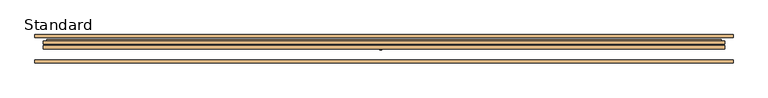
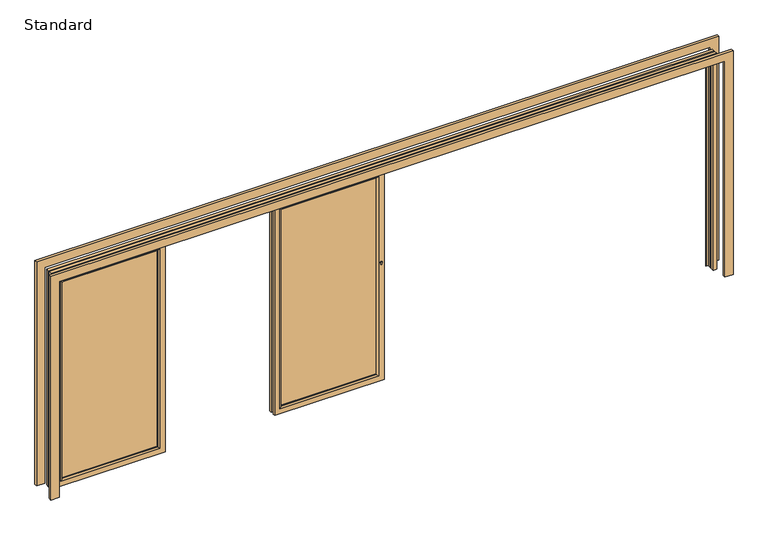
"""IFC4 building model written with IfcOpenShell, lengths in millimetres: door geometry, SMARTS_Visofold1000 : Standard."""

from ifc_helpers import new_model, si_unit, point, frame, frame_2d, origin, place, context, project, spatial, polyline, circle_curve, ellipse_curve, trimmed, segment, composite_curve, outline, extrude, faceted_brep, source, transform, mapped, element, save
from ifc_brep_helpers import plane_surface, cylinder_surface, advanced_brep


def standard_cc0f0e76(model_context):
    return source(origin(), model_context, "Body", "SolidModel", [
        extrude(outline(composite_curve([segment(polyline([(1125.1769586, -34.9893771), (1117.5996413, -34.9893771)]), True, "CONTINUOUS"), segment(trimmed(circle_curve(frame_2d((1117.5996413, -29.9893771)), 5.0), [point((1117.5996413, -34.9893771))], [point((1117.5996413, -24.9893771))], False, "CARTESIAN"), True, "CONTINUOUS"), segment(polyline([(1117.5996413, -24.9893771), (1125.27562, -24.9893771)]), True, "CONTINUOUS"), segment(trimmed(circle_curve(frame_2d((1132.0996413, -30.0571906)), 8.5), [point((1125.27562, -24.9893771))], [point((1125.1769586, -34.9893771))], False, "CARTESIAN"), True, "CONTINUOUS")], self_intersect=False)), frame((0.0, -12.0, 0.0), z_axis=(0.0, 1.0, 0.0), x_axis=(0.0, 0.0, 1.0)), (0.0, 0.0, 1.0), 2.0),
        extrude(outline(polyline([(45.0, -45.0), (1955.0, -45.0), (1955.0, -941.6666667), (45.0, -941.6666667), (45.0, -45.0)]), holes=[polyline([(1939.5, -60.5), (60.5, -60.5), (60.5, -926.1666667), (1939.5, -926.1666667), (1939.5, -60.5)])]), frame((0.0, 17.4, 0.0), z_axis=(0.0, 1.0, 0.0), x_axis=(0.0, 0.0, 1.0)), (0.0, 0.0, 1.0), 35.0),
        faceted_brep([(0.0, 74.4, 0.0), (0.0, 74.4, 2000.0), (0.0, 52.4, 2000.0), (0.0, 52.4, 0.0), (-60.5, 52.4, 60.5), (-60.5, 52.4, 1939.5), (-60.5, 74.4, 1939.5), (-60.5, 74.4, 60.5), (-986.6666667, 74.4, 2000.0), (-986.6666667, 52.4, 2000.0), (-926.1666667, 52.4, 1939.5), (-926.1666667, 74.4, 1939.5), (-986.6666667, 74.4, 0.0), (-986.6666667, 52.4, 0.0), (-926.1666667, 52.4, 60.5), (-926.1666667, 74.4, 60.5), (-17.8691481, 34.8, 17.8691481), (-17.8691481, 34.8, 1982.1308519), (-968.7975186, 34.8, 1982.1308519), (-968.7975186, 34.8, 17.8691481), (-45.0, 34.8, 1955.0), (-45.0, 34.8, 45.0), (-941.6666667, 34.8, 45.0), (-941.6666667, 34.8, 1955.0), (-17.8691481, 52.4, 17.8691481), (-17.8691481, 52.4, 1982.1308519), (-45.0, 52.4, 1955.0), (-45.0, 52.4, 45.0), (-968.7975186, 52.4, 1982.1308519), (-941.6666667, 52.4, 1955.0), (-968.7975186, 52.4, 17.8691481), (-941.6666667, 52.4, 45.0)], [[[0, 1, 2, 3]], [[4, 5, 6, 7]], [[1, 8, 9, 2]], [[5, 10, 11, 6]], [[8, 12, 13, 9]], [[10, 14, 15, 11]], [[12, 0, 3, 13]], [[1, 0, 12, 8], [7, 6, 11, 15]], [[14, 4, 7, 15]], [[16, 17, 18, 19], [20, 21, 22, 23]], [[24, 25, 17, 16]], [[21, 20, 26, 27]], [[25, 28, 18, 17]], [[20, 23, 29, 26]], [[28, 30, 19, 18]], [[23, 22, 31, 29]], [[30, 24, 16, 19]], [[3, 2, 9, 13], [25, 24, 30, 28]], [[27, 26, 29, 31], [5, 4, 14, 10]], [[22, 21, 27, 31]]]),
        advanced_brep(
        [(-60.5, 13.3, 60.5), (-60.5, 13.3, 1939.5), (-60.5, 17.4, 1939.5), (-60.5, 17.4, 60.5), (0.0, 17.4, 0.0), (0.0, 17.4, 2000.0), (0.0, 0.0, 2000.0), (0.0, 0.0, 0.0), (-926.1666667, 13.3, 1939.5), (-926.1666667, 17.4, 1939.5), (-986.6666667, 17.4, 2000.0), (-986.6666667, 0.0, 2000.0), (-926.1666667, 13.3, 60.5), (-926.1666667, 17.4, 60.5), (-986.6666667, 17.4, 0.0), (-986.6666667, 0.0, 0.0), (-47.2, 0.0, 1952.8), (-47.2, 0.0, 47.2), (-939.4666667, 0.0, 47.2), (-939.4666667, 0.0, 1952.8), (-17.8691481, 34.8, 17.8691481), (-17.8691481, 34.8, 1982.1308519), (-17.8691481, 17.4, 1982.1308519), (-17.8691481, 17.4, 17.8691481), (-968.7975186, 34.8, 1982.1308519), (-968.7975186, 17.4, 1982.1308519), (-968.7975186, 34.8, 17.8691481), (-968.7975186, 17.4, 17.8691481), (-45.0, 17.4, 45.0), (-45.0, 17.4, 1955.0), (-45.0, 34.8, 1955.0), (-45.0, 34.8, 45.0), (-941.6666667, 17.4, 1955.0), (-941.6666667, 34.8, 1955.0), (-941.6666667, 17.4, 45.0), (-941.6666667, 34.8, 45.0)],
        [
            (0, 1),
            (1, 2),
            (2, 3),
            (3, 0),
            (4, 5),
            (5, 6),
            (6, 7),
            (7, 4),
            (1, 8),
            (8, 9),
            (9, 2),
            (5, 10),
            (10, 11),
            (11, 6),
            (8, 12),
            (12, 13),
            (13, 9),
            (10, 14),
            (14, 15),
            (15, 11),
            (12, 0),
            (3, 13),
            (15, 7),
            (16, 17),
            (17, 18),
            (18, 19),
            (19, 16),
            (14, 4),
            (16, 1, ellipse_curve(frame((-47.2, 13.3, 1952.8), z_axis=(0.7071067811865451, 0.0, -0.7071067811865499), x_axis=(-0.70710678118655, 0.0, -0.7071067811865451)), 18.8090404, 13.3)),
            (0, 17, ellipse_curve(frame((-47.2, 13.3, 47.2), z_axis=(0.70710678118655, 0.0, 0.707106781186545), x_axis=(0.707106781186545, 0.0, -0.7071067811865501)), 18.8090404, 13.3)),
            (19, 8, ellipse_curve(frame((-939.4666667, 13.3, 1952.8), z_axis=(0.70710678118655, 0.0, 0.707106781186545), x_axis=(0.707106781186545, 0.0, -0.7071067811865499)), 18.8090404, 13.3)),
            (18, 12, ellipse_curve(frame((-939.4666667, 13.3, 47.2), z_axis=(-0.7071067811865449, 0.0, 0.70710678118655), x_axis=(0.7071067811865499, 0.0, 0.707106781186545)), 18.8090404, 13.3)),
            (20, 21),
            (21, 22),
            (22, 23),
            (23, 20),
            (21, 24),
            (24, 25),
            (25, 22),
            (24, 26),
            (26, 27),
            (27, 25),
            (27, 23),
            (26, 20),
            (28, 29),
            (29, 30),
            (30, 31),
            (31, 28),
            (29, 32),
            (32, 33),
            (33, 30),
            (32, 34),
            (34, 35),
            (35, 33),
            (34, 28),
            (31, 35),
        ],
        [
            plane_surface(frame((-60.5, 17.4, 60.5), z_axis=(-1.0, 0.0, 0.0), x_axis=(0.0, 0.0, 1.0))),
            plane_surface(frame((0.0, 0.0, 0.0), z_axis=(1.0, 0.0, 0.0), x_axis=(0.0, 0.0, 1.0))),
            plane_surface(frame((-60.5, 17.4, 1939.5), z_axis=(0.0, 0.0, -1.0), x_axis=(-1.0, 0.0, 0.0))),
            plane_surface(frame((0.0, 0.0, 2000.0), z_axis=(0.0, 0.0, 1.0), x_axis=(-1.0, 0.0, 0.0))),
            plane_surface(frame((-926.1666667, 17.4, 1939.5), z_axis=(1.0, 0.0, 0.0), x_axis=(0.0, 0.0, -1.0))),
            plane_surface(frame((-986.6666667, 0.0, 2000.0), z_axis=(-1.0, 0.0, 0.0), x_axis=(0.0, 0.0, -1.0))),
            plane_surface(frame((-926.1666667, 17.4, 60.5), z_axis=(0.0, 0.0, 1.0), x_axis=(1.0, 0.0, 0.0))),
            plane_surface(frame((-939.4666667, 0.0, 47.2), z_axis=(0.0, -1.0, 0.0), x_axis=(1.0, 0.0, 0.0))),
            plane_surface(frame((-986.6666667, 0.0, 0.0), z_axis=(0.0, 0.0, -1.0), x_axis=(1.0, 0.0, 0.0))),
            cylinder_surface(frame((-47.2, 13.3, 0.0), z_axis=(0.0, 0.0, -1.0), x_axis=(0.0, 1.0, 0.0)), 13.3),
            cylinder_surface(frame((0.0, 13.3, 1952.8), z_axis=(1.0, 0.0, 0.0), x_axis=(0.0, 1.0, 0.0)), 13.3),
            cylinder_surface(frame((-939.4666667, 13.3, 2000.0), z_axis=(0.0, 0.0, 1.0), x_axis=(0.0, 1.0, 0.0)), 13.3),
            cylinder_surface(frame((-986.6666667, 13.3, 47.2), z_axis=(-1.0, 0.0, 0.0), x_axis=(0.0, 1.0, 0.0)), 13.3),
            plane_surface(frame((-17.8691481, 17.4, 17.8691481), z_axis=(1.0, 0.0, 0.0), x_axis=(0.0, 0.0, 1.0))),
            plane_surface(frame((-17.8691481, 17.4, 1982.1308519), z_axis=(0.0, 0.0, 1.0), x_axis=(-1.0, 0.0, 0.0))),
            plane_surface(frame((-968.7975186, 17.4, 1982.1308519), z_axis=(-1.0, 0.0, 0.0), x_axis=(0.0, 0.0, -1.0))),
            plane_surface(frame((-986.6666667, 17.4, 0.0), z_axis=(0.0, 1.0, 0.0), x_axis=(1.0, 0.0, 0.0))),
            plane_surface(frame((-968.7975186, 17.4, 17.8691481), z_axis=(0.0, 0.0, -1.0), x_axis=(1.0, 0.0, 0.0))),
            plane_surface(frame((-45.0, 34.8, 45.0), z_axis=(-1.0, 0.0, 0.0), x_axis=(0.0, 0.0, 1.0))),
            plane_surface(frame((-45.0, 34.8, 1955.0), z_axis=(0.0, 0.0, -1.0), x_axis=(-1.0, 0.0, 0.0))),
            plane_surface(frame((-941.6666667, 34.8, 1955.0), z_axis=(1.0, 0.0, 0.0), x_axis=(0.0, 0.0, -1.0))),
            plane_surface(frame((-941.6666667, 34.8, 45.0), z_axis=(0.0, 0.0, 1.0), x_axis=(1.0, 0.0, 0.0))),
            plane_surface(frame((-941.6666667, 17.4, 45.0), z_axis=(0.0, 1.0, 0.0), x_axis=(1.0, 0.0, 0.0))),
            plane_surface(frame((-968.7975186, 34.8, 17.8691481), z_axis=(0.0, 1.0, 0.0), x_axis=(1.0, 0.0, 0.0))),
        ],
        [
            (0, [[1, 2, 3, 4]]),
            (1, [[5, 6, 7, 8]]),
            (2, [[9, 10, 11, -2]]),
            (3, [[12, 13, 14, -6]]),
            (4, [[15, 16, 17, -10]]),
            (5, [[18, 19, 20, -13]]),
            (6, [[21, -4, 22, -16]]),
            (7, [[-7, -14, -20, 23], [24, 25, 26, 27]]),
            (8, [[28, -8, -23, -19]]),
            (9, [[-24, 29, -1, 30]]),
            (10, [[-27, 31, -9, -29]]),
            (11, [[-26, 32, -15, -31]]),
            (12, [[-25, -30, -21, -32]]),
            (13, [[33, 34, 35, 36]]),
            (14, [[37, 38, 39, -34]]),
            (15, [[40, 41, 42, -38]]),
            (16, [[-5, -28, -18, -12], [-35, -39, -42, 43]]),
            (17, [[44, -36, -43, -41]]),
            (18, [[45, 46, 47, 48]]),
            (19, [[49, 50, 51, -46]]),
            (20, [[52, 53, 54, -50]]),
            (21, [[55, -48, 56, -53]]),
            (22, [[-45, -55, -52, -49], [-3, -11, -17, -22]]),
            (23, [[-33, -44, -40, -37], [-47, -51, -54, -56]]),
        ],
    ),
        extrude(outline(polyline([(-60.5, 50.1484783), (-60.5, 21.4), (-926.1666667, 21.4), (-926.1666667, 50.1484783), (-60.5, 50.1484783)])), frame((0.0, 0.0, 60.5), z_axis=(0.0, 0.0, 1.0), x_axis=(1.0, 0.0, 0.0)), (0.0, 0.0, 1.0), 1879.0),
        extrude(outline(polyline([(45.0, -2018.3333333), (1955.0, -2018.3333333), (1955.0, -2915.0), (45.0, -2915.0), (45.0, -2018.3333333)]), holes=[polyline([(1939.5, -2033.8333333), (60.5, -2033.8333333), (60.5, -2899.5), (1939.5, -2899.5), (1939.5, -2033.8333333)])]), frame((0.0, 17.4, 0.0), z_axis=(0.0, 1.0, 0.0), x_axis=(0.0, 0.0, 1.0)), (0.0, 0.0, 1.0), 35.0),
        faceted_brep([(-1973.3333333, 74.4, 0.0), (-1973.3333333, 74.4, 2000.0), (-1973.3333333, 52.4, 2000.0), (-1973.3333333, 52.4, 0.0), (-2033.8333333, 52.4, 60.5), (-2033.8333333, 52.4, 1939.5), (-2033.8333333, 74.4, 1939.5), (-2033.8333333, 74.4, 60.5), (-2960.0, 74.4, 0.0), (-2960.0, 52.4, 0.0), (-2960.0, 74.4, 2000.0), (-2960.0, 52.4, 2000.0), (-2899.5, 52.4, 1939.5), (-2899.5, 74.4, 1939.5), (-2899.5, 52.4, 60.5), (-2899.5, 74.4, 60.5), (-1991.2024814, 34.8, 17.8691481), (-1991.2024814, 34.8, 1982.1308519), (-2942.1308519, 34.8, 1982.1308519), (-2942.1308519, 34.8, 17.8691481), (-2018.3333333, 34.8, 1955.0), (-2018.3333333, 34.8, 45.0), (-2915.0, 34.8, 45.0), (-2915.0, 34.8, 1955.0), (-1991.2024814, 52.4, 17.8691481), (-1991.2024814, 52.4, 1982.1308519), (-2018.3333333, 52.4, 1955.0), (-2018.3333333, 52.4, 45.0), (-2942.1308519, 52.4, 1982.1308519), (-2915.0, 52.4, 1955.0), (-2942.1308519, 52.4, 17.8691481), (-2915.0, 52.4, 45.0)], [[[0, 1, 2, 3]], [[4, 5, 6, 7]], [[8, 0, 3, 9]], [[1, 10, 11, 2]], [[5, 12, 13, 6]], [[10, 8, 9, 11]], [[12, 14, 15, 13]], [[1, 0, 8, 10], [7, 6, 13, 15]], [[14, 4, 7, 15]], [[16, 17, 18, 19], [20, 21, 22, 23]], [[24, 25, 17, 16]], [[21, 20, 26, 27]], [[25, 28, 18, 17]], [[20, 23, 29, 26]], [[28, 30, 19, 18]], [[23, 22, 31, 29]], [[30, 24, 16, 19]], [[3, 2, 11, 9], [25, 24, 30, 28]], [[27, 26, 29, 31], [5, 4, 14, 12]], [[22, 21, 27, 31]]]),
        advanced_brep(
        [(-2033.8333333, 13.3, 60.5), (-2033.8333333, 13.3, 1939.5), (-2033.8333333, 17.4, 1939.5), (-2033.8333333, 17.4, 60.5), (-1973.3333333, 17.4, 0.0), (-1973.3333333, 17.4, 2000.0), (-1973.3333333, 0.0, 2000.0), (-1973.3333333, 0.0, 0.0), (-2899.5, 13.3, 1939.5), (-2899.5, 17.4, 1939.5), (-2960.0, 17.4, 2000.0), (-2960.0, 0.0, 2000.0), (-2899.5, 13.3, 60.5), (-2899.5, 17.4, 60.5), (-2960.0, 17.4, 0.0), (-2960.0, 0.0, 0.0), (-2020.5333333, 0.0, 1952.8), (-2020.5333333, 0.0, 47.2), (-2912.8, 0.0, 47.2), (-2912.8, 0.0, 1952.8), (-1991.2024814, 34.8, 17.8691481), (-1991.2024814, 34.8, 1982.1308519), (-1991.2024814, 17.4, 1982.1308519), (-1991.2024814, 17.4, 17.8691481), (-2942.1308519, 34.8, 1982.1308519), (-2942.1308519, 17.4, 1982.1308519), (-2942.1308519, 34.8, 17.8691481), (-2942.1308519, 17.4, 17.8691481), (-2018.3333333, 17.4, 45.0), (-2018.3333333, 17.4, 1955.0), (-2018.3333333, 34.8, 1955.0), (-2018.3333333, 34.8, 45.0), (-2915.0, 17.4, 1955.0), (-2915.0, 34.8, 1955.0), (-2915.0, 17.4, 45.0), (-2915.0, 34.8, 45.0)],
        [
            (0, 1),
            (1, 2),
            (2, 3),
            (3, 0),
            (4, 5),
            (5, 6),
            (6, 7),
            (7, 4),
            (1, 8),
            (8, 9),
            (9, 2),
            (5, 10),
            (10, 11),
            (11, 6),
            (8, 12),
            (12, 13),
            (13, 9),
            (10, 14),
            (14, 15),
            (15, 11),
            (12, 0),
            (3, 13),
            (15, 7),
            (16, 17),
            (17, 18),
            (18, 19),
            (19, 16),
            (14, 4),
            (16, 1, ellipse_curve(frame((-2020.5333333, 13.3, 1952.8), z_axis=(0.7071067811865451, 0.0, -0.7071067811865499), x_axis=(-0.70710678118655, 0.0, -0.7071067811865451)), 18.8090404, 13.3)),
            (0, 17, ellipse_curve(frame((-2020.5333333, 13.3, 47.2), z_axis=(0.70710678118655, 0.0, 0.707106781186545), x_axis=(0.707106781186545, 0.0, -0.7071067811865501)), 18.8090404, 13.3)),
            (19, 8, ellipse_curve(frame((-2912.8, 13.3, 1952.8), z_axis=(0.70710678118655, 0.0, 0.707106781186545), x_axis=(0.707106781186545, 0.0, -0.7071067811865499)), 18.8090404, 13.3)),
            (18, 12, ellipse_curve(frame((-2912.8, 13.3, 47.2), z_axis=(-0.7071067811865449, 0.0, 0.70710678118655), x_axis=(0.7071067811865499, 0.0, 0.707106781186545)), 18.8090404, 13.3)),
            (20, 21),
            (21, 22),
            (22, 23),
            (23, 20),
            (21, 24),
            (24, 25),
            (25, 22),
            (24, 26),
            (26, 27),
            (27, 25),
            (27, 23),
            (26, 20),
            (28, 29),
            (29, 30),
            (30, 31),
            (31, 28),
            (29, 32),
            (32, 33),
            (33, 30),
            (32, 34),
            (34, 35),
            (35, 33),
            (34, 28),
            (31, 35),
        ],
        [
            plane_surface(frame((-2033.8333333, 17.4, 60.5), z_axis=(-1.0, 0.0, 0.0), x_axis=(0.0, 0.0, 1.0))),
            plane_surface(frame((-1973.3333333, 0.0, 0.0), z_axis=(1.0, 0.0, 0.0), x_axis=(0.0, 0.0, 1.0))),
            plane_surface(frame((-2033.8333333, 17.4, 1939.5), z_axis=(0.0, 0.0, -1.0), x_axis=(-1.0, 0.0, 0.0))),
            plane_surface(frame((-1973.3333333, 0.0, 2000.0), z_axis=(0.0, 0.0, 1.0), x_axis=(-1.0, 0.0, 0.0))),
            plane_surface(frame((-2899.5, 17.4, 1939.5), z_axis=(1.0, 0.0, 0.0), x_axis=(0.0, 0.0, -1.0))),
            plane_surface(frame((-2960.0, 0.0, 2000.0), z_axis=(-1.0, 0.0, 0.0), x_axis=(0.0, 0.0, -1.0))),
            plane_surface(frame((-2899.5, 17.4, 60.5), z_axis=(0.0, 0.0, 1.0), x_axis=(1.0, 0.0, 0.0))),
            plane_surface(frame((-2912.8, 0.0, 47.2), z_axis=(0.0, -1.0, 0.0), x_axis=(1.0, 0.0, 0.0))),
            plane_surface(frame((-2960.0, 0.0, 0.0), z_axis=(0.0, 0.0, -1.0), x_axis=(1.0, 0.0, 0.0))),
            cylinder_surface(frame((-2020.5333333, 13.3, 0.0), z_axis=(0.0, 0.0, -1.0), x_axis=(0.0, 1.0, 0.0)), 13.3),
            cylinder_surface(frame((-1973.3333333, 13.3, 1952.8), z_axis=(1.0, 0.0, 0.0), x_axis=(0.0, 1.0, 0.0)), 13.3),
            cylinder_surface(frame((-2912.8, 13.3, 2000.0), z_axis=(0.0, 0.0, 1.0), x_axis=(0.0, 1.0, 0.0)), 13.3),
            cylinder_surface(frame((-2960.0, 13.3, 47.2), z_axis=(-1.0, 0.0, 0.0), x_axis=(0.0, 1.0, 0.0)), 13.3),
            plane_surface(frame((-1991.2024814, 17.4, 17.8691481), z_axis=(1.0, 0.0, 0.0), x_axis=(0.0, 0.0, 1.0))),
            plane_surface(frame((-1991.2024814, 17.4, 1982.1308519), z_axis=(0.0, 0.0, 1.0), x_axis=(-1.0, 0.0, 0.0))),
            plane_surface(frame((-2942.1308519, 17.4, 1982.1308519), z_axis=(-1.0, 0.0, 0.0), x_axis=(0.0, 0.0, -1.0))),
            plane_surface(frame((-2960.0, 17.4, 0.0), z_axis=(0.0, 1.0, 0.0), x_axis=(1.0, 0.0, 0.0))),
            plane_surface(frame((-2942.1308519, 17.4, 17.8691481), z_axis=(0.0, 0.0, -1.0), x_axis=(1.0, 0.0, 0.0))),
            plane_surface(frame((-2018.3333333, 34.8, 45.0), z_axis=(-1.0, 0.0, 0.0), x_axis=(0.0, 0.0, 1.0))),
            plane_surface(frame((-2018.3333333, 34.8, 1955.0), z_axis=(0.0, 0.0, -1.0), x_axis=(-1.0, 0.0, 0.0))),
            plane_surface(frame((-2915.0, 34.8, 1955.0), z_axis=(1.0, 0.0, 0.0), x_axis=(0.0, 0.0, -1.0))),
            plane_surface(frame((-2915.0, 34.8, 45.0), z_axis=(0.0, 0.0, 1.0), x_axis=(1.0, 0.0, 0.0))),
            plane_surface(frame((-2915.0, 17.4, 45.0), z_axis=(0.0, 1.0, 0.0), x_axis=(1.0, 0.0, 0.0))),
            plane_surface(frame((-2942.1308519, 34.8, 17.8691481), z_axis=(0.0, 1.0, 0.0), x_axis=(1.0, 0.0, 0.0))),
        ],
        [
            (0, [[1, 2, 3, 4]]),
            (1, [[5, 6, 7, 8]]),
            (2, [[9, 10, 11, -2]]),
            (3, [[12, 13, 14, -6]]),
            (4, [[15, 16, 17, -10]]),
            (5, [[18, 19, 20, -13]]),
            (6, [[21, -4, 22, -16]]),
            (7, [[-7, -14, -20, 23], [24, 25, 26, 27]]),
            (8, [[28, -8, -23, -19]]),
            (9, [[-24, 29, -1, 30]]),
            (10, [[-27, 31, -9, -29]]),
            (11, [[-26, 32, -15, -31]]),
            (12, [[-25, -30, -21, -32]]),
            (13, [[33, 34, 35, 36]]),
            (14, [[37, 38, 39, -34]]),
            (15, [[40, 41, 42, -38]]),
            (16, [[-5, -28, -18, -12], [-35, -39, -42, 43]]),
            (17, [[44, -36, -43, -41]]),
            (18, [[45, 46, 47, 48]]),
            (19, [[49, 50, 51, -46]]),
            (20, [[52, 53, 54, -50]]),
            (21, [[55, -48, 56, -53]]),
            (22, [[-45, -55, -52, -49], [-3, -11, -17, -22]]),
            (23, [[-33, -44, -40, -37], [-47, -51, -54, -56]]),
        ],
    ),
        extrude(outline(polyline([(-2033.8333333, 50.1484783), (-2033.8333333, 21.4), (-2899.5, 21.4), (-2899.5, 50.1484783), (-2033.8333333, 50.1484783)])), frame((0.0, 0.0, 60.5), z_axis=(0.0, 0.0, 1.0), x_axis=(1.0, 0.0, 0.0)), (0.0, 0.0, 1.0), 1879.0),
        extrude(outline(polyline([(2058.6516063, -3000.0), (2058.6516063, 3000.0), (0.0, 3000.0), (0.0, 3075.0), (2133.6516063, 3075.0), (2133.6516063, -3075.0), (0.0, -3075.0), (0.0, -3000.0), (2058.6516063, -3000.0)])), frame((0.0, 100.0, 0.0), z_axis=(0.0, 1.0, 0.0), x_axis=(0.0, 0.0, 1.0)), (0.0, 0.0, 1.0), 25.0),
        extrude(outline(polyline([(2133.6516063, -3075.0), (0.0, -3075.0), (0.0, -3000.0), (2058.6516063, -3000.0), (2058.6516063, 3000.0), (0.0, 3000.0), (0.0, 3075.0), (2133.6516063, 3075.0), (2133.6516063, -3075.0)])), frame((0.0, -125.0, 0.0), z_axis=(0.0, 1.0, 0.0), x_axis=(0.0, 0.0, 1.0)), (0.0, 0.0, 1.0), 25.0),
        extrude(outline(polyline([(0.0, 2968.8), (0.0, 3000.0), (2058.6516063, 3000.0), (2058.6516063, -3000.0), (0.0, -3000.0), (0.0, -2968.8), (2027.4516063, -2968.8), (2027.4516063, 2968.8), (0.0, 2968.8)])), frame((0.0, 0.0, 0.0), z_axis=(0.0, 1.0, 0.0), x_axis=(0.0, 0.0, 1.0)), (0.0, 0.0, 1.0), 29.65),
        faceted_brep([(3000.0, 44.85, 0.0), (2968.8, 44.85, 0.0), (2968.8, 77.4, 0.0), (2948.3, 77.4, 0.0), (2948.3, 81.9, 0.0), (2970.6, 81.9, 0.0), (2970.6, 70.0, 0.0), (3000.0, 70.0, 0.0), (3000.0, 44.85, 2058.6516063), (-3000.0, 44.85, 2058.6516063), (-3000.0, 44.85, 0.0), (-2968.8, 44.85, 0.0), (-2968.8, 44.85, 2027.4516063), (2968.8, 44.85, 2027.4516063), (2968.8, 77.4, 2027.4516063), (-2968.8, 77.4, 2027.4516063), (-2968.8, 77.4, 0.0), (-2948.3, 77.4, 0.0), (-2948.3, 77.4, 2006.9516063), (2948.3, 77.4, 2006.9516063), (2948.3, 81.9, 2006.9516063), (-2948.3, 81.9, 2006.9516063), (-2948.3, 81.9, 0.0), (-2970.6, 81.9, 0.0), (-2970.6, 81.9, 2029.2516063), (2970.6, 81.9, 2029.2516063), (2970.6, 70.0, 2029.2516063), (-2970.6, 70.0, 2029.2516063), (-2970.6, 70.0, 0.0), (-3000.0, 70.0, 0.0), (-3000.0, 70.0, 2058.6516063), (3000.0, 70.0, 2058.6516063)], [[[0, 1, 2, 3, 4, 5, 6, 7]], [[1, 0, 8, 9, 10, 11, 12, 13]], [[2, 1, 13, 14]], [[3, 2, 14, 15, 16, 17, 18, 19]], [[4, 3, 19, 20]], [[5, 4, 20, 21, 22, 23, 24, 25]], [[6, 5, 25, 26]], [[7, 6, 26, 27, 28, 29, 30, 31]], [[0, 7, 31, 8]], [[10, 29, 28, 23, 22, 17, 16, 11]], [[9, 30, 29, 10]], [[27, 24, 23, 28]], [[21, 18, 17, 22]], [[15, 12, 11, 16]], [[8, 31, 30, 9]], [[14, 13, 12, 15]], [[26, 25, 24, 27]], [[20, 19, 18, 21]]]),
    ])


if __name__ == "__main__":
    model = new_model("IFC4")
    model_context = context("Model", 3, world=origin())
    ifc_project = project(units=[si_unit("LENGTHUNIT", "METRE", prefix="MILLI")], contexts=[model_context])
    site = spatial("IfcSite", under=ifc_project)
    building = spatial("IfcBuilding", under=site)
    placement = place(None, origin())
    standard_shape = standard_cc0f0e76(model_context)
    element("IfcDoor", 1, ObjectType="SMARTS_Visofold1000 : Standard", at=placement, inside=building, context=model_context, shape_type="MappedRepresentation", body=[
        mapped(standard_shape, transform((0.0, 0.0, 0.0), x_axis=(1.0, 0.0, 0.0), y_axis=(0.0, 1.0, 0.0), z_axis=(0.0, 0.0, 1.0))),
    ])
    save(model, "model.ifc")
